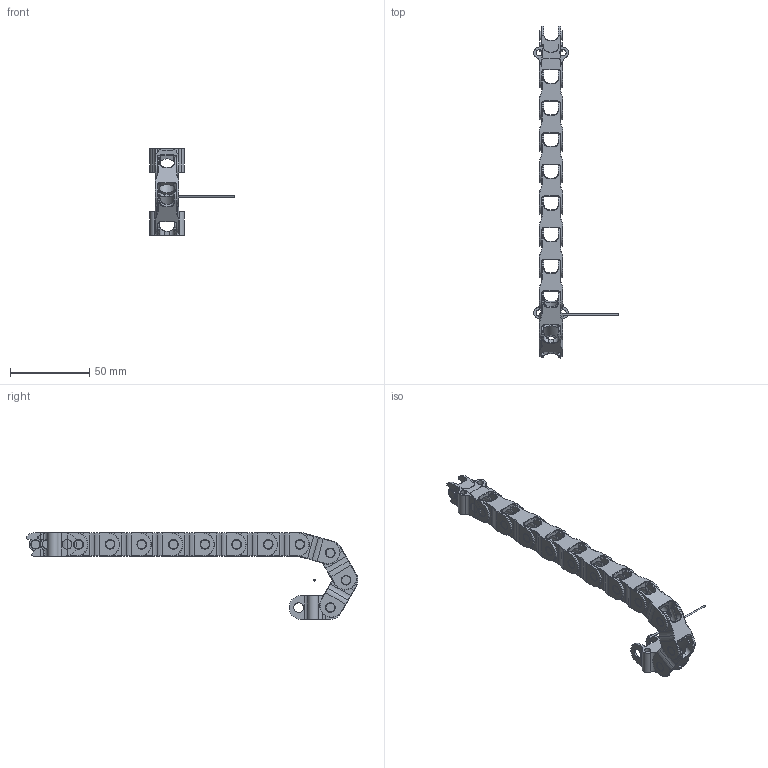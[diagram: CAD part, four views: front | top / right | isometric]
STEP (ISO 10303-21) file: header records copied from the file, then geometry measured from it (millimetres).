
FILE_DESCRIPTION((''),'2;1');
FILE_NAME('C:\Uebbing\PARAMETERKETTEN\KOLIBRI\Kol_15_015_3\KOLIBRI 15_015_3_R20.stp','2012-03-02T14:45:26',('Uebbing'),(''),'Autodesk Inventor 10','Autodesk Inventor 10','');
FILE_SCHEMA(('AUTOMOTIVE_DESIGN { 1 0 10303 214 1 1 1 1 }'));
Length unit declared in the file: millimetre
Products named in the file (4): KOLIBRI 15_015_3_PARAMETRISCH_K_Anschluß; Achse; Kol_15_015_3_Anschluss; Kol_15_015_3
Assembly tree (14 placements, depth 2):
  KOLIBRI 15_015_3_PARAMETRISCH_K_Anschluß
    Achse
    Kol_15_015_3_Anschluss  x2
    Kol_15_015_3  x11
Bounding box: 53.5 x 209.96 x 55 mm (x, y, z)
Volume: 28199.9 mm3; surface area: 30630.7 mm2
Topology: 14 solids, 14 shells, 1400 faces, 3519 edges, 2147 vertices
Faces by surface type: cylinder 665, plane 353, torus 275, bspline 55, cone 52
Full cylindrical faces by diameter (mm): 1 x1, 4 x4, 6.1 x26, 10 x13
Entity records: 6509 total; most frequent: CARTESIAN_POINT 1849, DIRECTION 1009, ORIENTED_EDGE 906, EDGE_CURVE 453, AXIS2_PLACEMENT_3D 401, VERTEX_POINT 292, EDGE_LOOP 217, VECTOR 207
